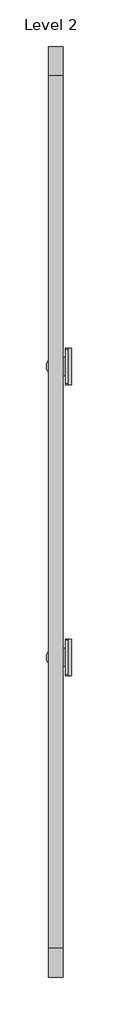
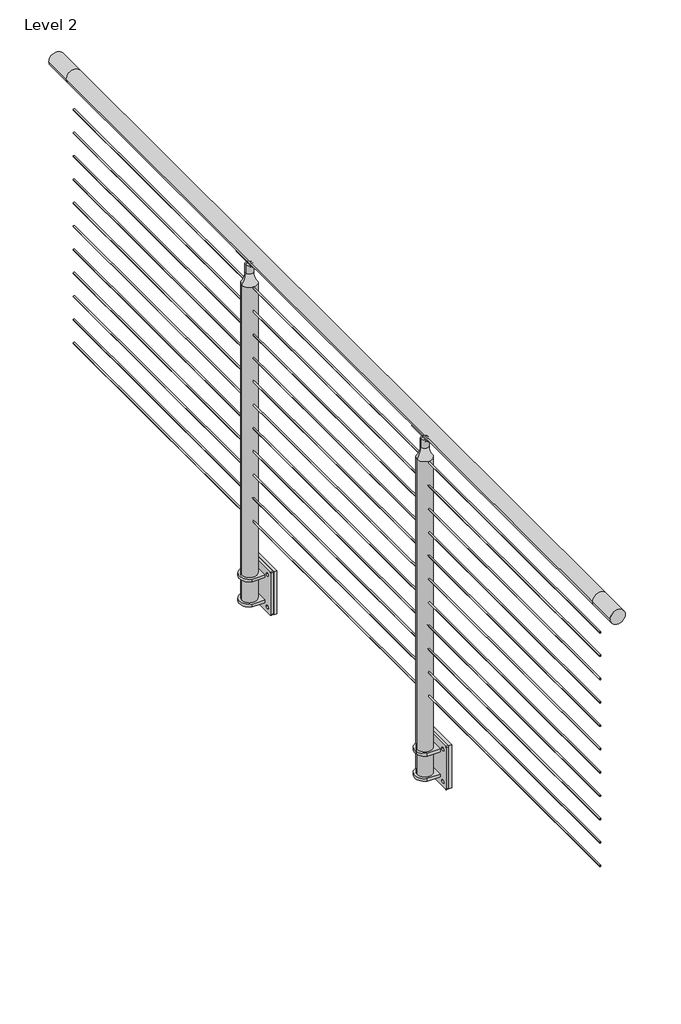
# One storey, part 2 of 21: 1 railing.
"""IFC4 building model written with IfcOpenShell, lengths in millimetres."""

from ifc_helpers import new_model, si_unit, point, frame, frame_2d, origin, place, context, project, spatial, polyline, circle_curve, ellipse_curve, trimmed, segment, composite_curve, outline, extrude, element, save
from ifc_brep_helpers import plane_surface, cylinder_surface, revolved_surface, advanced_brep

model = new_model("IFC4")

# Units and contexts
model_context = context("Model", 3, world=origin())
ifc_project = project(units=[si_unit("LENGTHUNIT", "METRE", prefix="MILLI")], contexts=[model_context])

# Site, building, storey
site = spatial("IfcSite", under=ifc_project)
building = spatial("IfcBuilding", under=site)
storey = spatial("IfcBuildingStorey", under=building, Name="Level 2", Elevation=3048.0)

# Railing
placement = place(None, origin())
element("IfcRailing", 1, ObjectType="VIVA-CIRCA-Cable-Fascia Mount-Straight", at=placement, inside=storey, context=model_context, shape_type="SolidModel", body=[
    advanced_brep(
    [(-9193.229515, -51203.0426165, 4102.1), (-9244.029515, -51203.0426165, 4102.1), (-9193.229515, -51101.4426165, 4102.1), (-9244.029515, -51101.4426165, 4102.1), (-9193.229515, -48053.4426165, 4102.1), (-9244.029515, -48053.4426165, 4102.1), (-9193.229515, -47951.8426165, 4102.1), (-9244.029515, -47951.8426165, 4102.1)],
    [
        (0, 1, circle_curve(frame((-9218.629515, -51203.0426165, 4102.1), z_axis=(0.0, -1.0, 0.0), x_axis=(-1.0, 0.0, 0.0)), 25.4)),
        (1, 0, circle_curve(frame((-9218.629515, -51203.0426165, 4102.1), z_axis=(0.0, -1.0, 0.0), x_axis=(-1.0, 0.0, 0.0)), 25.4)),
        (0, 2),
        (2, 3, circle_curve(frame((-9218.629515, -51101.4426165, 4102.1), z_axis=(0.0, -1.0, 0.0), x_axis=(-1.0, 0.0, 0.0)), 25.4)),
        (3, 1),
        (3, 2, circle_curve(frame((-9218.629515, -51101.4426165, 4102.1), z_axis=(0.0, -1.0, 0.0), x_axis=(-1.0, 0.0, 0.0)), 25.4)),
        (2, 4),
        (4, 5, circle_curve(frame((-9218.629515, -48053.4426165, 4102.1), z_axis=(0.0, -1.0, 0.0), x_axis=(-1.0, 0.0, 0.0)), 25.4)),
        (5, 3),
        (5, 4, circle_curve(frame((-9218.629515, -48053.4426165, 4102.1), z_axis=(0.0, -1.0, 0.0), x_axis=(-1.0, 0.0, 0.0)), 25.4)),
        (6, 7, circle_curve(frame((-9218.629515, -47951.8426165, 4102.1), z_axis=(0.0, 1.0, 0.0), x_axis=(-1.0, 0.0, 0.0)), 25.4)),
        (7, 6, circle_curve(frame((-9218.629515, -47951.8426165, 4102.1), z_axis=(0.0, 1.0, 0.0), x_axis=(-1.0, 0.0, 0.0)), 25.4)),
        (4, 6),
        (7, 5),
    ],
    [
        plane_surface(frame((-9218.629515, -51203.0426165, 4127.5), z_axis=(0.0, -1.0, 0.0), x_axis=(0.0, 0.0, 1.0))),
        cylinder_surface(frame((-9218.629515, -51203.0426165, 4102.1), z_axis=(0.0, -1.0, 0.0), x_axis=(-1.0, 0.0, 0.0)), 25.4),
        cylinder_surface(frame((-9218.629515, -51101.4426165, 4102.1), z_axis=(0.0, -1.0, 0.0), x_axis=(-1.0, 0.0, 0.0)), 25.4),
        plane_surface(frame((-9218.629515, -47951.8426165, 4127.5), z_axis=(0.0, 1.0, 0.0), x_axis=(0.0, 0.0, 1.0))),
        cylinder_surface(frame((-9218.629515, -48053.4426165, 4102.1), z_axis=(0.0, -1.0, 0.0), x_axis=(-1.0, 0.0, 0.0)), 25.4),
    ],
    [
        (0, [[1, 2]]),
        (1, [[-1, 3, 4, 5]]),
        (1, [[-2, -5, 6, -3]]),
        (2, [[-4, 7, 8, 9]]),
        (2, [[-6, -9, 10, -7]]),
        (3, [[11, 12]]),
        (4, [[-8, 13, -12, 14]]),
        (4, [[-10, -14, -11, -13]]),
    ],
),
    extrude(outline(composite_curve([segment(trimmed(circle_curve(frame_2d((3985.4124, -9218.629515)), 2.3876), [point((3985.4124, -9216.241915))], [point((3985.4124, -9221.017115))], False, "CARTESIAN"), True, "CONTINUOUS"), segment(trimmed(circle_curve(frame_2d((3985.4124, -9218.629515)), 2.3876), [point((3985.4124, -9221.017115))], [point((3985.4124, -9216.241915))], False, "CARTESIAN"), True, "CONTINUOUS")], self_intersect=False)), frame((0.0, -51101.4426165, 0.0), z_axis=(0.0, 1.0, 0.0), x_axis=(0.0, 0.0, 1.0)), (0.0, 0.0, 1.0), 3048.0),
    extrude(outline(composite_curve([segment(trimmed(circle_curve(frame_2d((3902.8624, -9218.629515)), 2.3876), [point((3902.8624, -9216.241915))], [point((3902.8624, -9221.017115))], False, "CARTESIAN"), True, "CONTINUOUS"), segment(trimmed(circle_curve(frame_2d((3902.8624, -9218.629515)), 2.3876), [point((3902.8624, -9221.017115))], [point((3902.8624, -9216.241915))], False, "CARTESIAN"), True, "CONTINUOUS")], self_intersect=False)), frame((0.0, -51101.4426165, 0.0), z_axis=(0.0, 1.0, 0.0), x_axis=(0.0, 0.0, 1.0)), (0.0, 0.0, 1.0), 3048.0),
    extrude(outline(composite_curve([segment(trimmed(circle_curve(frame_2d((3820.3124, -9218.629515)), 2.3876), [point((3820.3124, -9216.241915))], [point((3820.3124, -9221.017115))], False, "CARTESIAN"), True, "CONTINUOUS"), segment(trimmed(circle_curve(frame_2d((3820.3124, -9218.629515)), 2.3876), [point((3820.3124, -9221.017115))], [point((3820.3124, -9216.241915))], False, "CARTESIAN"), True, "CONTINUOUS")], self_intersect=False)), frame((0.0, -51101.4426165, 0.0), z_axis=(0.0, 1.0, 0.0), x_axis=(0.0, 0.0, 1.0)), (0.0, 0.0, 1.0), 3048.0),
    extrude(outline(composite_curve([segment(trimmed(circle_curve(frame_2d((3737.7624, -9218.629515)), 2.3876), [point((3737.7624, -9216.241915))], [point((3737.7624, -9221.017115))], False, "CARTESIAN"), True, "CONTINUOUS"), segment(trimmed(circle_curve(frame_2d((3737.7624, -9218.629515)), 2.3876), [point((3737.7624, -9221.017115))], [point((3737.7624, -9216.241915))], False, "CARTESIAN"), True, "CONTINUOUS")], self_intersect=False)), frame((0.0, -51101.4426165, 0.0), z_axis=(0.0, 1.0, 0.0), x_axis=(0.0, 0.0, 1.0)), (0.0, 0.0, 1.0), 3048.0),
    extrude(outline(composite_curve([segment(trimmed(circle_curve(frame_2d((3655.2124, -9218.629515)), 2.3876), [point((3655.2124, -9216.241915))], [point((3655.2124, -9221.017115))], False, "CARTESIAN"), True, "CONTINUOUS"), segment(trimmed(circle_curve(frame_2d((3655.2124, -9218.629515)), 2.3876), [point((3655.2124, -9221.017115))], [point((3655.2124, -9216.241915))], False, "CARTESIAN"), True, "CONTINUOUS")], self_intersect=False)), frame((0.0, -51101.4426165, 0.0), z_axis=(0.0, 1.0, 0.0), x_axis=(0.0, 0.0, 1.0)), (0.0, 0.0, 1.0), 3048.0),
    extrude(outline(composite_curve([segment(trimmed(circle_curve(frame_2d((3572.6624, -9218.629515)), 2.3876), [point((3572.6624, -9216.241915))], [point((3572.6624, -9221.017115))], False, "CARTESIAN"), True, "CONTINUOUS"), segment(trimmed(circle_curve(frame_2d((3572.6624, -9218.629515)), 2.3876), [point((3572.6624, -9221.017115))], [point((3572.6624, -9216.241915))], False, "CARTESIAN"), True, "CONTINUOUS")], self_intersect=False)), frame((0.0, -51101.4426165, 0.0), z_axis=(0.0, 1.0, 0.0), x_axis=(0.0, 0.0, 1.0)), (0.0, 0.0, 1.0), 3048.0),
    extrude(outline(composite_curve([segment(trimmed(circle_curve(frame_2d((3490.1124, -9218.629515)), 2.3876), [point((3490.1124, -9216.241915))], [point((3490.1124, -9221.017115))], False, "CARTESIAN"), True, "CONTINUOUS"), segment(trimmed(circle_curve(frame_2d((3490.1124, -9218.629515)), 2.3876), [point((3490.1124, -9221.017115))], [point((3490.1124, -9216.241915))], False, "CARTESIAN"), True, "CONTINUOUS")], self_intersect=False)), frame((0.0, -51101.4426165, 0.0), z_axis=(0.0, 1.0, 0.0), x_axis=(0.0, 0.0, 1.0)), (0.0, 0.0, 1.0), 3048.0),
    extrude(outline(composite_curve([segment(trimmed(circle_curve(frame_2d((3407.5624, -9218.629515)), 2.3876), [point((3407.5624, -9216.241915))], [point((3407.5624, -9221.017115))], False, "CARTESIAN"), True, "CONTINUOUS"), segment(trimmed(circle_curve(frame_2d((3407.5624, -9218.629515)), 2.3876), [point((3407.5624, -9221.017115))], [point((3407.5624, -9216.241915))], False, "CARTESIAN"), True, "CONTINUOUS")], self_intersect=False)), frame((0.0, -51101.4426165, 0.0), z_axis=(0.0, 1.0, 0.0), x_axis=(0.0, 0.0, 1.0)), (0.0, 0.0, 1.0), 3048.0),
    extrude(outline(composite_curve([segment(trimmed(circle_curve(frame_2d((3325.0124, -9218.629515)), 2.3876), [point((3325.0124, -9216.241915))], [point((3325.0124, -9221.017115))], False, "CARTESIAN"), True, "CONTINUOUS"), segment(trimmed(circle_curve(frame_2d((3325.0124, -9218.629515)), 2.3876), [point((3325.0124, -9221.017115))], [point((3325.0124, -9216.241915))], False, "CARTESIAN"), True, "CONTINUOUS")], self_intersect=False)), frame((0.0, -51101.4426165, 0.0), z_axis=(0.0, 1.0, 0.0), x_axis=(0.0, 0.0, 1.0)), (0.0, 0.0, 1.0), 3048.0),
    extrude(outline(composite_curve([segment(trimmed(circle_curve(frame_2d((3242.4624, -9218.629515)), 2.3876), [point((3242.4624, -9216.241915))], [point((3242.4624, -9221.017115))], False, "CARTESIAN"), True, "CONTINUOUS"), segment(trimmed(circle_curve(frame_2d((3242.4624, -9218.629515)), 2.3876), [point((3242.4624, -9221.017115))], [point((3242.4624, -9216.241915))], False, "CARTESIAN"), True, "CONTINUOUS")], self_intersect=False)), frame((0.0, -51101.4426165, 0.0), z_axis=(0.0, 1.0, 0.0), x_axis=(0.0, 0.0, 1.0)), (0.0, 0.0, 1.0), 3048.0),
    extrude(outline(composite_curve([segment(trimmed(circle_curve(frame_2d((3159.9124, -9218.629515)), 2.3876), [point((3159.9124, -9216.241915))], [point((3159.9124, -9221.017115))], False, "CARTESIAN"), True, "CONTINUOUS"), segment(trimmed(circle_curve(frame_2d((3159.9124, -9218.629515)), 2.3876), [point((3159.9124, -9221.017115))], [point((3159.9124, -9216.241915))], False, "CARTESIAN"), True, "CONTINUOUS")], self_intersect=False)), frame((0.0, -51101.4426165, 0.0), z_axis=(0.0, 1.0, 0.0), x_axis=(0.0, 0.0, 1.0)), (0.0, 0.0, 1.0), 3048.0),
    extrude(outline(composite_curve([segment(trimmed(circle_curve(frame_2d((4078.7923545, -9232.6441472)), 2.9558141), [point((4081.3106679, -9231.0965895))], [point((4076.9214354, -9234.9324869))], False, "CARTESIAN"), True, "CONTINUOUS"), segment(trimmed(circle_curve(frame_2d((4104.1881188, -9218.6662497)), 31.75), [point((4076.9214354, -9234.9324869))], [point((4076.3406769, -9203.4155947))], False, "CARTESIAN"), True, "CONTINUOUS"), segment(trimmed(circle_curve(frame_2d((4078.7132623, -9204.8928997)), 2.7949225), [point((4076.3406769, -9203.4155947))], [point((4081.2157471, -9206.1375529))], False, "CARTESIAN"), True, "CONTINUOUS"), segment(trimmed(circle_curve(frame_2d((4103.4254922, -9218.5327866)), 25.4345159), [point((4081.2157471, -9206.1375529))], [point((4081.3106679, -9231.0965895))], True, "CARTESIAN"), True, "CONTINUOUS")], self_intersect=False)), frame((0.0, -49114.2831415, 0.0), z_axis=(0.0, 1.0, 0.0), x_axis=(0.0, 0.0, 1.0)), (0.0, 0.0, 1.0), 90.4748),
    advanced_brep(
    [(-9216.089515, -49041.9778267, 4072.6506908), (-9216.089515, -49096.1136564, 4072.6506908), (-9216.089515, -49081.7457415, 4058.282776), (-9216.089515, -49056.3457415, 4058.282776), (-9221.169515, -49041.9778267, 4072.6506908), (-9221.169515, -49056.3457415, 4058.282776), (-9221.169515, -49081.7457415, 4058.282776), (-9221.169515, -49096.1136564, 4072.6506908)],
    [
        (0, 1),
        (1, 2, circle_curve(frame((-9216.089515, -49096.1136564, 4058.282776), z_axis=(-1.0, 0.0, 0.0), x_axis=(0.0, -1.0, 0.0)), 14.3679149)),
        (2, 3, circle_curve(frame((-9216.089515, -49069.0457415, 4058.282776), z_axis=(1.0, 0.0, 0.0), x_axis=(0.0, -1.0, 0.0)), 12.7)),
        (3, 0, circle_curve(frame((-9216.089515, -49041.9778267, 4058.282776), z_axis=(-1.0, 0.0, 0.0), x_axis=(0.0, -1.0, 0.0)), 14.3679149)),
        (4, 5, circle_curve(frame((-9221.169515, -49041.9778267, 4058.282776), z_axis=(1.0, 0.0, 0.0), x_axis=(0.0, -1.0, 0.0)), 14.3679149)),
        (5, 6, circle_curve(frame((-9221.169515, -49069.0457415, 4058.282776), z_axis=(-1.0, 0.0, 0.0), x_axis=(0.0, -1.0, 0.0)), 12.7)),
        (6, 7, circle_curve(frame((-9221.169515, -49096.1136564, 4058.282776), z_axis=(1.0, 0.0, 0.0), x_axis=(0.0, -1.0, 0.0)), 14.3679149)),
        (7, 4),
        (3, 5),
        (4, 0),
        (2, 6),
        (1, 7),
    ],
    [
        plane_surface(frame((-9216.089515, -49056.3457415, 4058.282776), z_axis=(1.0, 0.0, 0.0), x_axis=(0.0, 0.0, -1.0))),
        plane_surface(frame((-9221.169515, -49056.3457415, 4058.282776), z_axis=(-1.0, 0.0, 0.0), x_axis=(0.0, 0.0, 1.0))),
        revolved_surface(polyline([(-9221.169515, -49056.3457416, 4058.282776), (-9216.089515, -49056.3457416, 4058.282776)]), (-9221.169515, -49041.9778267, 4058.282776), (-1.0, 0.0, 0.0)),
        cylinder_surface(frame((-9221.169515, -49069.0457415, 4058.282776), z_axis=(1.0, 0.0, 0.0), x_axis=(0.0, -1.0, 0.0)), 12.7),
        revolved_surface(polyline([(-9221.169515, -49110.4815713, 4058.282776), (-9216.089515, -49110.4815713, 4058.282776)]), (-9221.169515, -49096.1136564, 4058.282776), (-1.0, 0.0, 0.0)),
        plane_surface(frame((-9216.089515, -49096.1136564, 4072.6506908), z_axis=(0.0, 0.0, 1.0), x_axis=(-1.0, 0.0, 0.0))),
    ],
    [
        (0, [[1, 2, 3, 4]]),
        (1, [[5, 6, 7, 8]]),
        (2, [[9, -5, 10, -4]]),
        (3, [[11, -6, -9, -3]]),
        (4, [[12, -7, -11, -2]]),
        (5, [[-10, -8, -12, -1]]),
    ],
),
    extrude(outline(polyline([(-9164.1164794, -49005.5457415), (-9164.1164794, -49132.5457415), (-9174.0986794, -49132.5457415), (-9174.0986794, -49005.5457415), (-9164.1164794, -49005.5457415)])), frame((0.0, 0.0, 2838.45), z_axis=(0.0, 0.0, 1.0), x_axis=(1.0, 0.0, 0.0)), (0.0, 0.0, 1.0), 152.4),
    extrude(outline(composite_curve([segment(polyline([(-9174.0986794, -49100.7957415), (-9227.8256965, -49100.7957415)]), True, "CONTINUOUS"), segment(trimmed(circle_curve(frame_2d((-9218.629515, -49069.0457415)), 33.0549883), [point((-9227.8256965, -49100.7957415))], [point((-9227.8256965, -49037.2957415))], False, "CARTESIAN"), True, "CONTINUOUS"), segment(polyline([(-9227.8256965, -49037.2957415), (-9174.0986794, -49037.2957415), (-9174.0986794, -49100.7957415)]), True, "CONTINUOUS")], self_intersect=False)), frame((0.0, 0.0, 2865.4375), z_axis=(0.0, 0.0, 1.0), x_axis=(1.0, 0.0, 0.0)), (0.0, 0.0, 1.0), 9.525),
    extrude(outline(composite_curve([segment(polyline([(-9174.0986794, -49100.7957415), (-9227.8256965, -49100.7957415)]), True, "CONTINUOUS"), segment(trimmed(circle_curve(frame_2d((-9218.629515, -49069.0457415)), 33.0549883), [point((-9227.8256965, -49100.7957415))], [point((-9227.8256965, -49037.2957415))], False, "CARTESIAN"), True, "CONTINUOUS"), segment(polyline([(-9227.8256965, -49037.2957415), (-9174.0986794, -49037.2957415), (-9174.0986794, -49100.7957415)]), True, "CONTINUOUS")], self_intersect=False)), frame((0.0, 0.0, 2954.3375), z_axis=(0.0, 0.0, 1.0), x_axis=(1.0, 0.0, 0.0)), (0.0, 0.0, 1.0), 9.525),
    extrude(outline(composite_curve([segment(trimmed(circle_curve(frame_2d((-49008.0857415, 2988.31)), 2.54), [point((-49008.0857415, 2990.85))], [point((-49005.5457415, 2988.31))], False, "CARTESIAN"), True, "CONTINUOUS"), segment(polyline([(-49005.5457415, 2988.31), (-49005.5457415, 2840.99)]), True, "CONTINUOUS"), segment(trimmed(circle_curve(frame_2d((-49008.0857415, 2840.99)), 2.54), [point((-49005.5457415, 2840.99))], [point((-49008.0857415, 2838.45))], False, "CARTESIAN"), True, "CONTINUOUS"), segment(polyline([(-49008.0857415, 2838.45), (-49130.0057415, 2838.45)]), True, "CONTINUOUS"), segment(trimmed(circle_curve(frame_2d((-49130.0057415, 2840.99)), 2.54), [point((-49130.0057415, 2838.45))], [point((-49132.5457415, 2840.99))], False, "CARTESIAN"), True, "CONTINUOUS"), segment(polyline([(-49132.5457415, 2840.99), (-49132.5457415, 2988.31)]), True, "CONTINUOUS"), segment(trimmed(circle_curve(frame_2d((-49130.0057415, 2988.31)), 2.54), [point((-49132.5457415, 2988.31))], [point((-49130.0057415, 2990.85))], False, "CARTESIAN"), True, "CONTINUOUS"), segment(polyline([(-49130.0057415, 2990.85), (-49008.0857415, 2990.85)]), True, "CONTINUOUS")], self_intersect=False), holes=[composite_curve([segment(trimmed(circle_curve(frame_2d((-49113.4957415, 2971.8)), 5.55625), [point((-49107.9394915, 2971.8))], [point((-49119.0519915, 2971.8))], True, "CARTESIAN"), True, "CONTINUOUS"), segment(trimmed(circle_curve(frame_2d((-49113.4957415, 2971.8)), 5.55625), [point((-49119.0519915, 2971.8))], [point((-49107.9394915, 2971.8))], True, "CARTESIAN"), True, "CONTINUOUS")], self_intersect=False), composite_curve([segment(trimmed(circle_curve(frame_2d((-49024.5957415, 2971.8)), 5.55625), [point((-49019.0394915, 2971.8))], [point((-49030.1519915, 2971.8))], True, "CARTESIAN"), True, "CONTINUOUS"), segment(trimmed(circle_curve(frame_2d((-49024.5957415, 2971.8)), 5.55625), [point((-49030.1519915, 2971.8))], [point((-49019.0394915, 2971.8))], True, "CARTESIAN"), True, "CONTINUOUS")], self_intersect=False), composite_curve([segment(trimmed(circle_curve(frame_2d((-49024.5957415, 2857.5)), 5.55625), [point((-49019.0394915, 2857.5))], [point((-49030.1519915, 2857.5))], True, "CARTESIAN"), True, "CONTINUOUS"), segment(trimmed(circle_curve(frame_2d((-49024.5957415, 2857.5)), 5.55625), [point((-49030.1519915, 2857.5))], [point((-49019.0394915, 2857.5))], True, "CARTESIAN"), True, "CONTINUOUS")], self_intersect=False), composite_curve([segment(trimmed(circle_curve(frame_2d((-49113.4957415, 2857.5)), 5.55625), [point((-49107.9394915, 2857.5))], [point((-49119.0519915, 2857.5))], True, "CARTESIAN"), True, "CONTINUOUS"), segment(trimmed(circle_curve(frame_2d((-49113.4957415, 2857.5)), 5.55625), [point((-49119.0519915, 2857.5))], [point((-49107.9394915, 2857.5))], True, "CARTESIAN"), True, "CONTINUOUS")], self_intersect=False)]), frame((-9184.0808794, 0.0, 0.0), z_axis=(1.0, 0.0, 0.0), x_axis=(0.0, 1.0, 0.0)), (0.0, 0.0, 1.0), 9.9822),
    advanced_brep(
    [(-9244.0289128, -49069.0457415, 3989.1347854), (-9244.0289128, -49069.0457415, 2874.9498), (-9193.2301172, -49069.0457415, 2874.9498), (-9193.2301172, -49069.0457415, 3989.1347854), (-9231.3674835, -49069.0457415, 4027.3486202), (-9205.8915464, -49069.0457415, 4027.3486202), (-9231.3674835, -49069.0457415, 4056.5779599), (-9205.8915464, -49069.0457415, 4056.5779599), (-9218.629515, -49069.0457415, 4063.238668), (-9218.629515, -49069.0457415, 2874.9498)],
    [
        (0, 1),
        (1, 2, circle_curve(frame((-9218.629515, -49069.0457415, 2874.9498), z_axis=(0.0, 0.0, 1.0), x_axis=(1.0, 0.0, 0.0)), 25.3993978)),
        (2, 3),
        (3, 0, circle_curve(frame((-9218.629515, -49069.0457415, 3989.1347854), z_axis=(0.0, 0.0, -1.0), x_axis=(1.0, 0.0, 0.0)), 25.3993978)),
        (2, 1, circle_curve(frame((-9218.629515, -49069.0457415, 2874.9498), z_axis=(0.0, 0.0, 1.0), x_axis=(1.0, 0.0, 0.0)), 25.3993978)),
        (0, 3, circle_curve(frame((-9218.629515, -49069.0457415, 3989.1347854), z_axis=(0.0, 0.0, -1.0), x_axis=(1.0, 0.0, 0.0)), 25.3993978)),
        (4, 0, circle_curve(frame((-9295.3653518, -49069.0457415, 4027.3486202), z_axis=(0.0, 1.0, 0.0), x_axis=(-1.0, 0.0, 0.0)), 63.9978683)),
        (3, 5, circle_curve(frame((-9141.8936782, -49069.0457415, 4027.3486202), z_axis=(0.0, 1.0, 0.0), x_axis=(1.0, 0.0, 0.0)), 63.9978683)),
        (5, 4, circle_curve(frame((-9218.629515, -49069.0457415, 4027.3486202), z_axis=(0.0, 0.0, -1.0), x_axis=(1.0, 0.0, 0.0)), 12.7379685)),
        (4, 5, circle_curve(frame((-9218.629515, -49069.0457415, 4027.3486202), z_axis=(0.0, 0.0, -1.0), x_axis=(1.0, 0.0, 0.0)), 12.7379685)),
        (6, 4),
        (5, 7),
        (7, 6, circle_curve(frame((-9218.629515, -49069.0457415, 4056.5779599), z_axis=(0.0, 0.0, -1.0), x_axis=(1.0, 0.0, 0.0)), 12.7379685)),
        (6, 7, circle_curve(frame((-9218.629515, -49069.0457415, 4056.5779599), z_axis=(0.0, 0.0, -1.0), x_axis=(1.0, 0.0, 0.0)), 12.7379685)),
        (8, 6, circle_curve(frame((-9218.629515, -49069.0457415, 4047.7282394), z_axis=(0.0, -1.0, 0.0), x_axis=(-1.0, 0.0, 0.0)), 15.5104286)),
        (7, 8, circle_curve(frame((-9218.629515, -49069.0457415, 4047.7282394), z_axis=(0.0, -1.0, 0.0), x_axis=(1.0, 0.0, 0.0)), 15.5104286)),
        (1, 9),
        (9, 2),
    ],
    [
        cylinder_surface(frame((-9218.629515, -49069.0457415, 4152.9), z_axis=(0.0, 0.0, 1.0), x_axis=(1.0, 0.0, 0.0)), 25.3993978),
        revolved_surface(trimmed(ellipse_curve(frame((-9141.8936782, -49069.0457415, 4027.3486202), z_axis=(0.0, 1.0, 0.0), x_axis=(1.0, 0.0, 0.0)), 63.9978683, 63.9978683), [point((-9193.2301172, -49069.0457415, 3989.1347854))], [point((-9205.8915464, -49069.0457415, 4027.3486202))], True, "CARTESIAN"), (-9218.629515, -49069.0457415, 4152.9), (0.0, 0.0, 1.0)),
        cylinder_surface(frame((-9218.629515, -49069.0457415, 4152.9), z_axis=(0.0, 0.0, 1.0), x_axis=(1.0, 0.0, 0.0)), 12.7379685),
        revolved_surface(trimmed(ellipse_curve(frame((-9218.629515, -49069.0457415, 4047.7282394), z_axis=(0.0, -1.0, 0.0), x_axis=(1.0, 0.0, 0.0)), 15.5104286, 15.5104286), [point((-9205.8915464, -49069.0457415, 4056.5779599))], [point((-9218.629515, -49069.0457415, 4063.238668))], True, "CARTESIAN"), (-9218.629515, -49069.0457415, 4152.9), (0.0, 0.0, 1.0)),
        plane_surface(frame((-9218.629515, -49069.0457415, 2874.9498), z_axis=(0.0, 0.0, -1.0), x_axis=(1.0, 0.0, 0.0))),
    ],
    [
        (0, [[1, 2, 3, 4]]),
        (0, [[-3, 5, -1, 6]]),
        (1, [[7, -4, 8, 9]]),
        (1, [[-8, -6, -7, 10]]),
        (2, [[11, -9, 12, 13]]),
        (2, [[-12, -10, -11, 14]]),
        (3, [[15, -13, 16]]),
        (3, [[-16, -14, -15]]),
        (4, [[17, 18, -2]]),
        (4, [[-18, -17, -5]]),
    ],
),
    extrude(outline(composite_curve([segment(trimmed(circle_curve(frame_2d((4078.7923545, -9232.6441472)), 2.9558141), [point((4081.3106679, -9231.0965895))], [point((4076.9214354, -9234.9324869))], False, "CARTESIAN"), True, "CONTINUOUS"), segment(trimmed(circle_curve(frame_2d((4104.1881188, -9218.6662497)), 31.75), [point((4076.9214354, -9234.9324869))], [point((4076.3406769, -9203.4155947))], False, "CARTESIAN"), True, "CONTINUOUS"), segment(trimmed(circle_curve(frame_2d((4078.7132623, -9204.8928997)), 2.7949225), [point((4076.3406769, -9203.4155947))], [point((4081.2157471, -9206.1375529))], False, "CARTESIAN"), True, "CONTINUOUS"), segment(trimmed(circle_curve(frame_2d((4103.4254922, -9218.5327866)), 25.4345159), [point((4081.2157471, -9206.1375529))], [point((4081.3106679, -9231.0965895))], True, "CARTESIAN"), True, "CONTINUOUS")], self_intersect=False)), frame((0.0, -50130.2831415, 0.0), z_axis=(0.0, 1.0, 0.0), x_axis=(0.0, 0.0, 1.0)), (0.0, 0.0, 1.0), 90.4748),
    advanced_brep(
    [(-9216.089515, -50057.9778267, 4072.6506908), (-9216.089515, -50112.1136564, 4072.6506908), (-9216.089515, -50097.7457415, 4058.282776), (-9216.089515, -50072.3457415, 4058.282776), (-9221.169515, -50057.9778267, 4072.6506908), (-9221.169515, -50072.3457415, 4058.282776), (-9221.169515, -50097.7457415, 4058.282776), (-9221.169515, -50112.1136564, 4072.6506908)],
    [
        (0, 1),
        (1, 2, circle_curve(frame((-9216.089515, -50112.1136564, 4058.282776), z_axis=(-1.0, 0.0, 0.0), x_axis=(0.0, -1.0, 0.0)), 14.3679149)),
        (2, 3, circle_curve(frame((-9216.089515, -50085.0457415, 4058.282776), z_axis=(1.0, 0.0, 0.0), x_axis=(0.0, -1.0, 0.0)), 12.7)),
        (3, 0, circle_curve(frame((-9216.089515, -50057.9778267, 4058.282776), z_axis=(-1.0, 0.0, 0.0), x_axis=(0.0, -1.0, 0.0)), 14.3679149)),
        (4, 5, circle_curve(frame((-9221.169515, -50057.9778267, 4058.282776), z_axis=(1.0, 0.0, 0.0), x_axis=(0.0, -1.0, 0.0)), 14.3679149)),
        (5, 6, circle_curve(frame((-9221.169515, -50085.0457415, 4058.282776), z_axis=(-1.0, 0.0, 0.0), x_axis=(0.0, -1.0, 0.0)), 12.7)),
        (6, 7, circle_curve(frame((-9221.169515, -50112.1136564, 4058.282776), z_axis=(1.0, 0.0, 0.0), x_axis=(0.0, -1.0, 0.0)), 14.3679149)),
        (7, 4),
        (3, 5),
        (4, 0),
        (2, 6),
        (1, 7),
    ],
    [
        plane_surface(frame((-9216.089515, -50072.3457415, 4058.282776), z_axis=(1.0, 0.0, 0.0), x_axis=(0.0, 0.0, -1.0))),
        plane_surface(frame((-9221.169515, -50072.3457415, 4058.282776), z_axis=(-1.0, 0.0, 0.0), x_axis=(0.0, 0.0, 1.0))),
        revolved_surface(polyline([(-9221.169515, -50072.3457416, 4058.282776), (-9216.089515, -50072.3457416, 4058.282776)]), (-9221.169515, -50057.9778267, 4058.282776), (-1.0, 0.0, 0.0)),
        cylinder_surface(frame((-9221.169515, -50085.0457415, 4058.282776), z_axis=(1.0, 0.0, 0.0), x_axis=(0.0, -1.0, 0.0)), 12.7),
        revolved_surface(polyline([(-9221.169515, -50126.4815713, 4058.282776), (-9216.089515, -50126.4815713, 4058.282776)]), (-9221.169515, -50112.1136564, 4058.282776), (-1.0, 0.0, 0.0)),
        plane_surface(frame((-9216.089515, -50112.1136564, 4072.6506908), z_axis=(0.0, 0.0, 1.0), x_axis=(-1.0, 0.0, 0.0))),
    ],
    [
        (0, [[1, 2, 3, 4]]),
        (1, [[5, 6, 7, 8]]),
        (2, [[9, -5, 10, -4]]),
        (3, [[11, -6, -9, -3]]),
        (4, [[12, -7, -11, -2]]),
        (5, [[-10, -8, -12, -1]]),
    ],
),
    extrude(outline(polyline([(-9164.1164794, -50021.5457415), (-9164.1164794, -50148.5457415), (-9174.0986794, -50148.5457415), (-9174.0986794, -50021.5457415), (-9164.1164794, -50021.5457415)])), frame((0.0, 0.0, 2838.45), z_axis=(0.0, 0.0, 1.0), x_axis=(1.0, 0.0, 0.0)), (0.0, 0.0, 1.0), 152.4),
    extrude(outline(composite_curve([segment(polyline([(-9174.0986794, -50116.7957415), (-9227.8256965, -50116.7957415)]), True, "CONTINUOUS"), segment(trimmed(circle_curve(frame_2d((-9218.629515, -50085.0457415)), 33.0549883), [point((-9227.8256965, -50116.7957415))], [point((-9227.8256965, -50053.2957415))], False, "CARTESIAN"), True, "CONTINUOUS"), segment(polyline([(-9227.8256965, -50053.2957415), (-9174.0986794, -50053.2957415), (-9174.0986794, -50116.7957415)]), True, "CONTINUOUS")], self_intersect=False)), frame((0.0, 0.0, 2865.4375), z_axis=(0.0, 0.0, 1.0), x_axis=(1.0, 0.0, 0.0)), (0.0, 0.0, 1.0), 9.525),
    extrude(outline(composite_curve([segment(polyline([(-9174.0986794, -50116.7957415), (-9227.8256965, -50116.7957415)]), True, "CONTINUOUS"), segment(trimmed(circle_curve(frame_2d((-9218.629515, -50085.0457415)), 33.0549883), [point((-9227.8256965, -50116.7957415))], [point((-9227.8256965, -50053.2957415))], False, "CARTESIAN"), True, "CONTINUOUS"), segment(polyline([(-9227.8256965, -50053.2957415), (-9174.0986794, -50053.2957415), (-9174.0986794, -50116.7957415)]), True, "CONTINUOUS")], self_intersect=False)), frame((0.0, 0.0, 2954.3375), z_axis=(0.0, 0.0, 1.0), x_axis=(1.0, 0.0, 0.0)), (0.0, 0.0, 1.0), 9.525),
    extrude(outline(composite_curve([segment(trimmed(circle_curve(frame_2d((-50024.0857415, 2988.31)), 2.54), [point((-50024.0857415, 2990.85))], [point((-50021.5457415, 2988.31))], False, "CARTESIAN"), True, "CONTINUOUS"), segment(polyline([(-50021.5457415, 2988.31), (-50021.5457415, 2840.99)]), True, "CONTINUOUS"), segment(trimmed(circle_curve(frame_2d((-50024.0857415, 2840.99)), 2.54), [point((-50021.5457415, 2840.99))], [point((-50024.0857415, 2838.45))], False, "CARTESIAN"), True, "CONTINUOUS"), segment(polyline([(-50024.0857415, 2838.45), (-50146.0057415, 2838.45)]), True, "CONTINUOUS"), segment(trimmed(circle_curve(frame_2d((-50146.0057415, 2840.99)), 2.54), [point((-50146.0057415, 2838.45))], [point((-50148.5457415, 2840.99))], False, "CARTESIAN"), True, "CONTINUOUS"), segment(polyline([(-50148.5457415, 2840.99), (-50148.5457415, 2988.31)]), True, "CONTINUOUS"), segment(trimmed(circle_curve(frame_2d((-50146.0057415, 2988.31)), 2.54), [point((-50148.5457415, 2988.31))], [point((-50146.0057415, 2990.85))], False, "CARTESIAN"), True, "CONTINUOUS"), segment(polyline([(-50146.0057415, 2990.85), (-50024.0857415, 2990.85)]), True, "CONTINUOUS")], self_intersect=False), holes=[composite_curve([segment(trimmed(circle_curve(frame_2d((-50129.4957415, 2971.8)), 5.55625), [point((-50123.9394915, 2971.8))], [point((-50135.0519915, 2971.8))], True, "CARTESIAN"), True, "CONTINUOUS"), segment(trimmed(circle_curve(frame_2d((-50129.4957415, 2971.8)), 5.55625), [point((-50135.0519915, 2971.8))], [point((-50123.9394915, 2971.8))], True, "CARTESIAN"), True, "CONTINUOUS")], self_intersect=False), composite_curve([segment(trimmed(circle_curve(frame_2d((-50040.5957415, 2971.8)), 5.55625), [point((-50035.0394915, 2971.8))], [point((-50046.1519915, 2971.8))], True, "CARTESIAN"), True, "CONTINUOUS"), segment(trimmed(circle_curve(frame_2d((-50040.5957415, 2971.8)), 5.55625), [point((-50046.1519915, 2971.8))], [point((-50035.0394915, 2971.8))], True, "CARTESIAN"), True, "CONTINUOUS")], self_intersect=False), composite_curve([segment(trimmed(circle_curve(frame_2d((-50040.5957415, 2857.5)), 5.55625), [point((-50035.0394915, 2857.5))], [point((-50046.1519915, 2857.5))], True, "CARTESIAN"), True, "CONTINUOUS"), segment(trimmed(circle_curve(frame_2d((-50040.5957415, 2857.5)), 5.55625), [point((-50046.1519915, 2857.5))], [point((-50035.0394915, 2857.5))], True, "CARTESIAN"), True, "CONTINUOUS")], self_intersect=False), composite_curve([segment(trimmed(circle_curve(frame_2d((-50129.4957415, 2857.5)), 5.55625), [point((-50123.9394915, 2857.5))], [point((-50135.0519915, 2857.5))], True, "CARTESIAN"), True, "CONTINUOUS"), segment(trimmed(circle_curve(frame_2d((-50129.4957415, 2857.5)), 5.55625), [point((-50135.0519915, 2857.5))], [point((-50123.9394915, 2857.5))], True, "CARTESIAN"), True, "CONTINUOUS")], self_intersect=False)]), frame((-9184.0808794, 0.0, 0.0), z_axis=(1.0, 0.0, 0.0), x_axis=(0.0, 1.0, 0.0)), (0.0, 0.0, 1.0), 9.9822),
    advanced_brep(
    [(-9244.0289128, -50085.0457415, 3989.1347854), (-9244.0289128, -50085.0457415, 2874.9498), (-9193.2301172, -50085.0457415, 2874.9498), (-9193.2301172, -50085.0457415, 3989.1347854), (-9231.3674835, -50085.0457415, 4027.3486202), (-9205.8915464, -50085.0457415, 4027.3486202), (-9231.3674835, -50085.0457415, 4056.5779599), (-9205.8915464, -50085.0457415, 4056.5779599), (-9218.629515, -50085.0457415, 4063.238668), (-9218.629515, -50085.0457415, 2874.9498)],
    [
        (0, 1),
        (1, 2, circle_curve(frame((-9218.629515, -50085.0457415, 2874.9498), z_axis=(0.0, 0.0, 1.0), x_axis=(1.0, 0.0, 0.0)), 25.3993978)),
        (2, 3),
        (3, 0, circle_curve(frame((-9218.629515, -50085.0457415, 3989.1347854), z_axis=(0.0, 0.0, -1.0), x_axis=(1.0, 0.0, 0.0)), 25.3993978)),
        (2, 1, circle_curve(frame((-9218.629515, -50085.0457415, 2874.9498), z_axis=(0.0, 0.0, 1.0), x_axis=(1.0, 0.0, 0.0)), 25.3993978)),
        (0, 3, circle_curve(frame((-9218.629515, -50085.0457415, 3989.1347854), z_axis=(0.0, 0.0, -1.0), x_axis=(1.0, 0.0, 0.0)), 25.3993978)),
        (4, 0, circle_curve(frame((-9295.3653518, -50085.0457415, 4027.3486202), z_axis=(0.0, 1.0, 0.0), x_axis=(-1.0, 0.0, 0.0)), 63.9978683)),
        (3, 5, circle_curve(frame((-9141.8936782, -50085.0457415, 4027.3486202), z_axis=(0.0, 1.0, 0.0), x_axis=(1.0, 0.0, 0.0)), 63.9978683)),
        (5, 4, circle_curve(frame((-9218.629515, -50085.0457415, 4027.3486202), z_axis=(0.0, 0.0, -1.0), x_axis=(1.0, 0.0, 0.0)), 12.7379685)),
        (4, 5, circle_curve(frame((-9218.629515, -50085.0457415, 4027.3486202), z_axis=(0.0, 0.0, -1.0), x_axis=(1.0, 0.0, 0.0)), 12.7379685)),
        (6, 4),
        (5, 7),
        (7, 6, circle_curve(frame((-9218.629515, -50085.0457415, 4056.5779599), z_axis=(0.0, 0.0, -1.0), x_axis=(1.0, 0.0, 0.0)), 12.7379685)),
        (6, 7, circle_curve(frame((-9218.629515, -50085.0457415, 4056.5779599), z_axis=(0.0, 0.0, -1.0), x_axis=(1.0, 0.0, 0.0)), 12.7379685)),
        (8, 6, circle_curve(frame((-9218.629515, -50085.0457415, 4047.7282394), z_axis=(0.0, -1.0, 0.0), x_axis=(-1.0, 0.0, 0.0)), 15.5104286)),
        (7, 8, circle_curve(frame((-9218.629515, -50085.0457415, 4047.7282394), z_axis=(0.0, -1.0, 0.0), x_axis=(1.0, 0.0, 0.0)), 15.5104286)),
        (1, 9),
        (9, 2),
    ],
    [
        cylinder_surface(frame((-9218.629515, -50085.0457415, 4152.9), z_axis=(0.0, 0.0, 1.0), x_axis=(1.0, 0.0, 0.0)), 25.3993978),
        revolved_surface(trimmed(ellipse_curve(frame((-9141.8936782, -50085.0457415, 4027.3486202), z_axis=(0.0, 1.0, 0.0), x_axis=(1.0, 0.0, 0.0)), 63.9978683, 63.9978683), [point((-9193.2301172, -50085.0457415, 3989.1347854))], [point((-9205.8915464, -50085.0457415, 4027.3486202))], True, "CARTESIAN"), (-9218.629515, -50085.0457415, 4152.9), (0.0, 0.0, 1.0)),
        cylinder_surface(frame((-9218.629515, -50085.0457415, 4152.9), z_axis=(0.0, 0.0, 1.0), x_axis=(1.0, 0.0, 0.0)), 12.7379685),
        revolved_surface(trimmed(ellipse_curve(frame((-9218.629515, -50085.0457415, 4047.7282394), z_axis=(0.0, -1.0, 0.0), x_axis=(1.0, 0.0, 0.0)), 15.5104286, 15.5104286), [point((-9205.8915464, -50085.0457415, 4056.5779599))], [point((-9218.629515, -50085.0457415, 4063.238668))], True, "CARTESIAN"), (-9218.629515, -50085.0457415, 4152.9), (0.0, 0.0, 1.0)),
        plane_surface(frame((-9218.629515, -50085.0457415, 2874.9498), z_axis=(0.0, 0.0, -1.0), x_axis=(1.0, 0.0, 0.0))),
    ],
    [
        (0, [[1, 2, 3, 4]]),
        (0, [[-3, 5, -1, 6]]),
        (1, [[7, -4, 8, 9]]),
        (1, [[-8, -6, -7, 10]]),
        (2, [[11, -9, 12, 13]]),
        (2, [[-12, -10, -11, 14]]),
        (3, [[15, -13, 16]]),
        (3, [[-16, -14, -15]]),
        (4, [[17, 18, -2]]),
        (4, [[-18, -17, -5]]),
    ],
),
])

save(model, "model.ifc")
